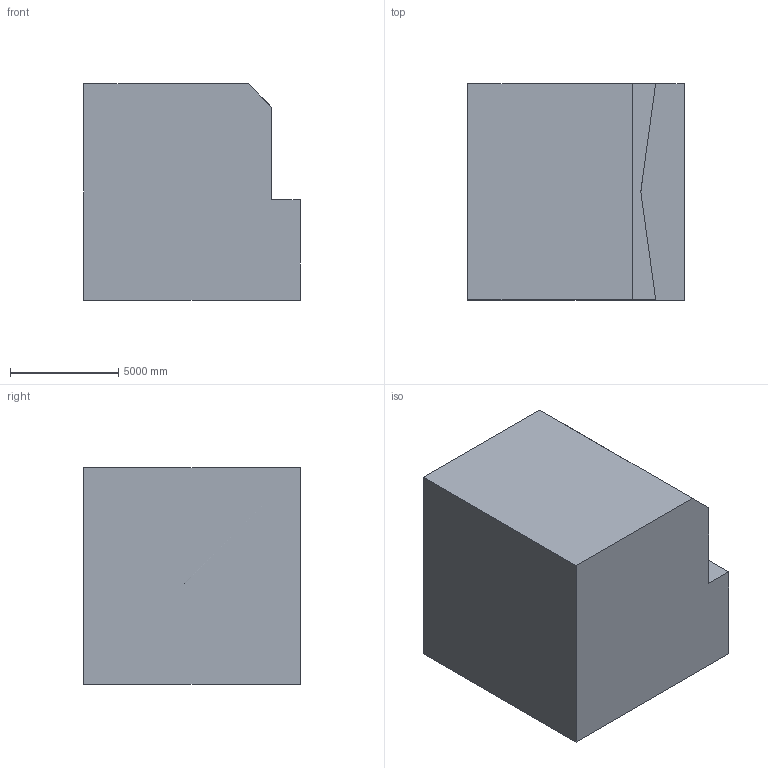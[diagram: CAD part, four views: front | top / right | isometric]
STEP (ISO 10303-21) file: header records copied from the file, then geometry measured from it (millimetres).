
FILE_DESCRIPTION (( 'STEP AP203' ), '1' );
FILE_NAME ('1118.STEP', '2022-08-18T12:49:55', ( 'user' ), ( '' ), 'SwSTEP 2.0', 'SolidWorks 2021', '' );
FILE_SCHEMA (( 'CONFIG_CONTROL_DESIGN' ));
Length unit declared in the file: centimetre
Products named in the file (1): 1118
Bounding box: 10000 x 10000 x 10000 mm (x, y, z)
Volume: 908111127237.7 mm3; surface area: 580916361.1 mm2
Topology: 1 solids, 1 shells, 10 faces, 24 edges, 16 vertices
Faces by surface type: plane 10
Entity records: 365 total; most frequent: CARTESIAN_POINT 51, ORIENTED_EDGE 48, DIRECTION 46, EDGE_CURVE 24, LINE 24, VECTOR 24, VERTEX_POINT 16, AXIS2_PLACEMENT_3D 11
